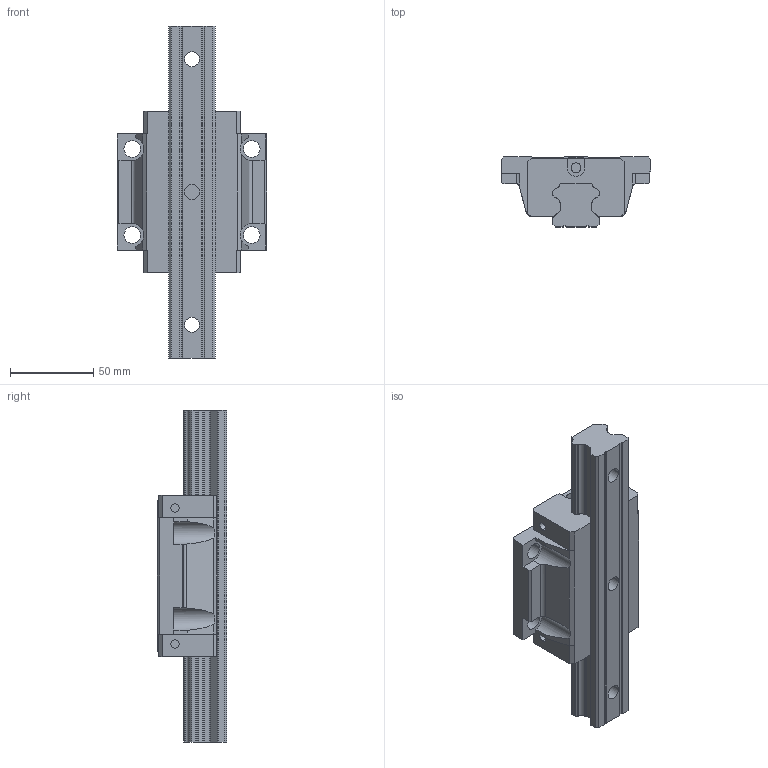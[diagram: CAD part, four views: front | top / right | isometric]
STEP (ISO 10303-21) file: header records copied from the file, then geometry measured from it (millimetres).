
FILE_DESCRIPTION((''),'2;1');
FILE_NAME('HGW30CC_ASM','2008-07-11T',('immo'),(''),'PRO/ENGINEER BY PARAMETRIC TECHNOLOGY CORPORATION, 2004360','PRO/ENGINEER BY PARAMETRIC TECHNOLOGY CORPORATION, 2004360','');
FILE_SCHEMA(('CONFIG_CONTROL_DESIGN'));
Length unit declared in the file: millimetre
Products named in the file (4): HGW30_1; HGR30_1; HGW30_ASM_1_ASM; HGW30CC_ASM
Assembly tree (3 placements, depth 3):
  HGW30CC_ASM
    HGW30_ASM_1_ASM
      HGW30_1
      HGR30_1
Bounding box: 90 x 42 x 200 mm (x, y, z)
Volume: 302345.2 mm3; surface area: 58133.3 mm2
Topology: 2 solids, 2 shells, 229 faces, 708 edges, 496 vertices
Faces by surface type: plane 137, cylinder 92
Entity records: 8211 total; most frequent: CARTESIAN_POINT 1521, ORIENTED_EDGE 1416, DIRECTION 1360, EDGE_CURVE 708, VECTOR 500, LINE 500, VERTEX_POINT 496, AXIS2_PLACEMENT_3D 430
